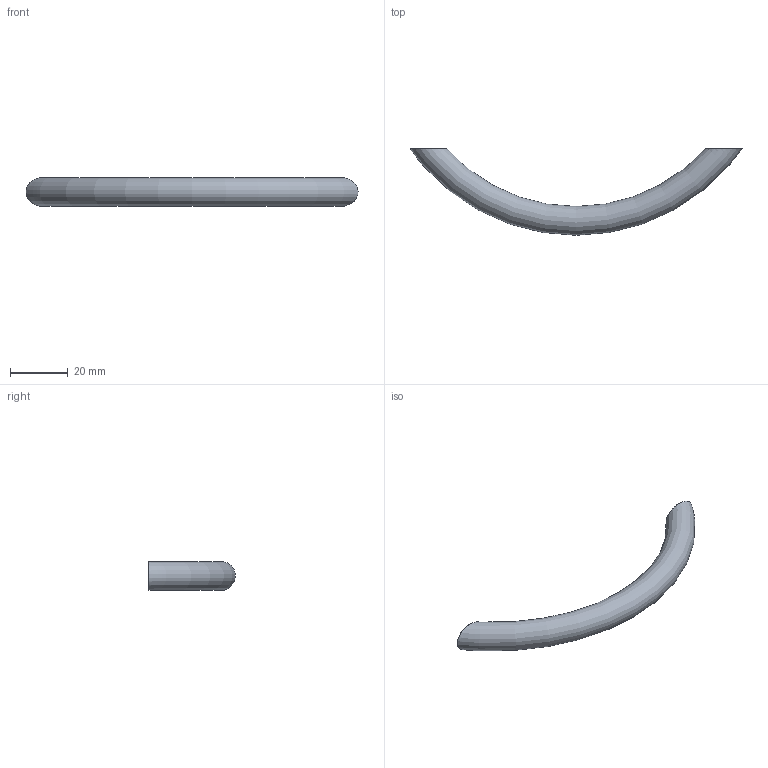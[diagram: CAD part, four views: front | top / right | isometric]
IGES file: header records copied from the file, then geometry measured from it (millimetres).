
Start section: Data from Parasolid IGES Translator 15.0.47, Copyright(c) 2006 Siemens P LM Software. All Rights Reserved.
Global section: file name:  9070446.igs; native system:  By UGS Corp.; preprocessor: XPlus GENERIC/IGES 3.0; author: Noname; organization: Noname; date: 20140122.155200; units: millimetre
Bounding box: 114.99 x 29.97 x 9.99 mm (x, y, z)
Surface area: 4057.4 mm2 (no closed solid volume)
Topology: 0 solids, 0 shells, 7 faces, 18 edges, 14 vertices
Faces by surface type: extrusion 4, revolution 3
